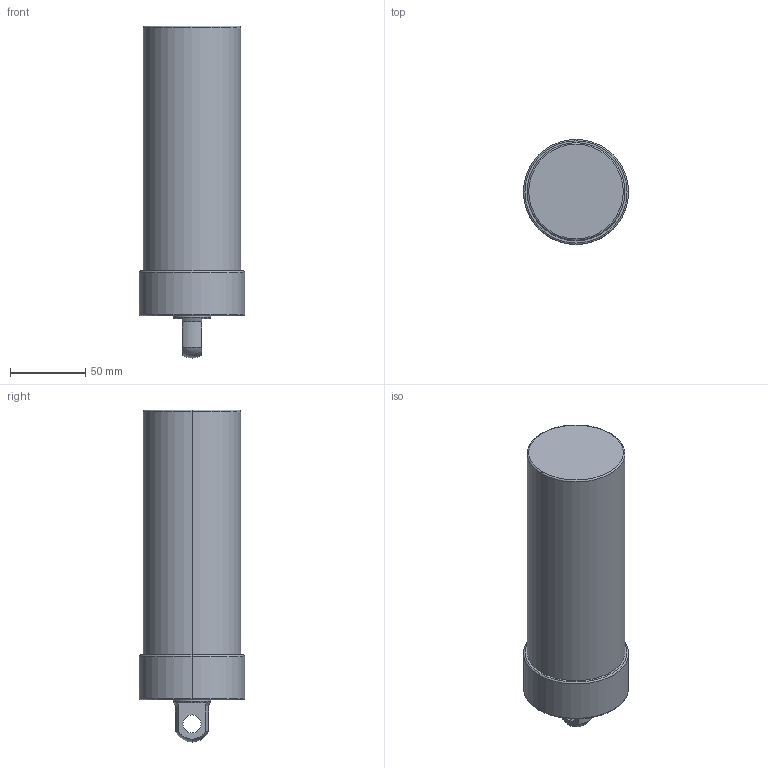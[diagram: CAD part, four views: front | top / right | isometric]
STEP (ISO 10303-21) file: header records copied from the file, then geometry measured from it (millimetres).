
FILE_DESCRIPTION (( 'STEP AP203' ), '1' );
FILE_NAME ('CLLU-065GP-130.STEP', '2020-01-08T00:37:31', ( '' ), ( '' ), 'SwSTEP 2.0', 'SolidWorks 2015', '' );
FILE_SCHEMA (( 'CONFIG_CONTROL_DESIGN' ));
Length unit declared in the file: millimetre
Products named in the file (1): CLLU-065GP-130
Bounding box: 70 x 70 x 221 mm (x, y, z)
Volume: 660422.9 mm3; surface area: 50241.1 mm2
Topology: 1 solids, 1 shells, 57 faces, 130 edges, 75 vertices
Faces by surface type: cylinder 22, cone 18, plane 9, torus 6, sphere 2
Entity records: 1643 total; most frequent: DIRECTION 308, CARTESIAN_POINT 267, ORIENTED_EDGE 244, AXIS2_PLACEMENT_3D 132, EDGE_CURVE 122, VERTEX_POINT 75, CIRCLE 74, EDGE_LOOP 67
